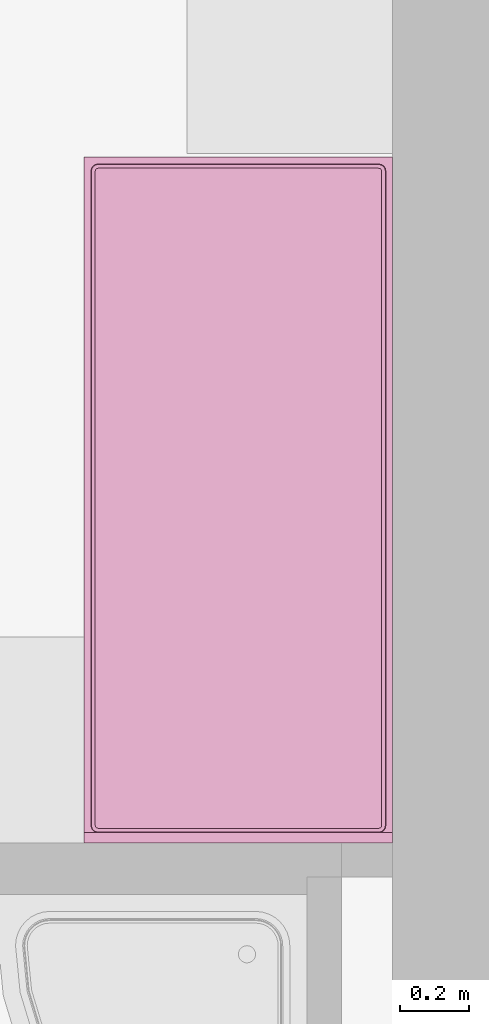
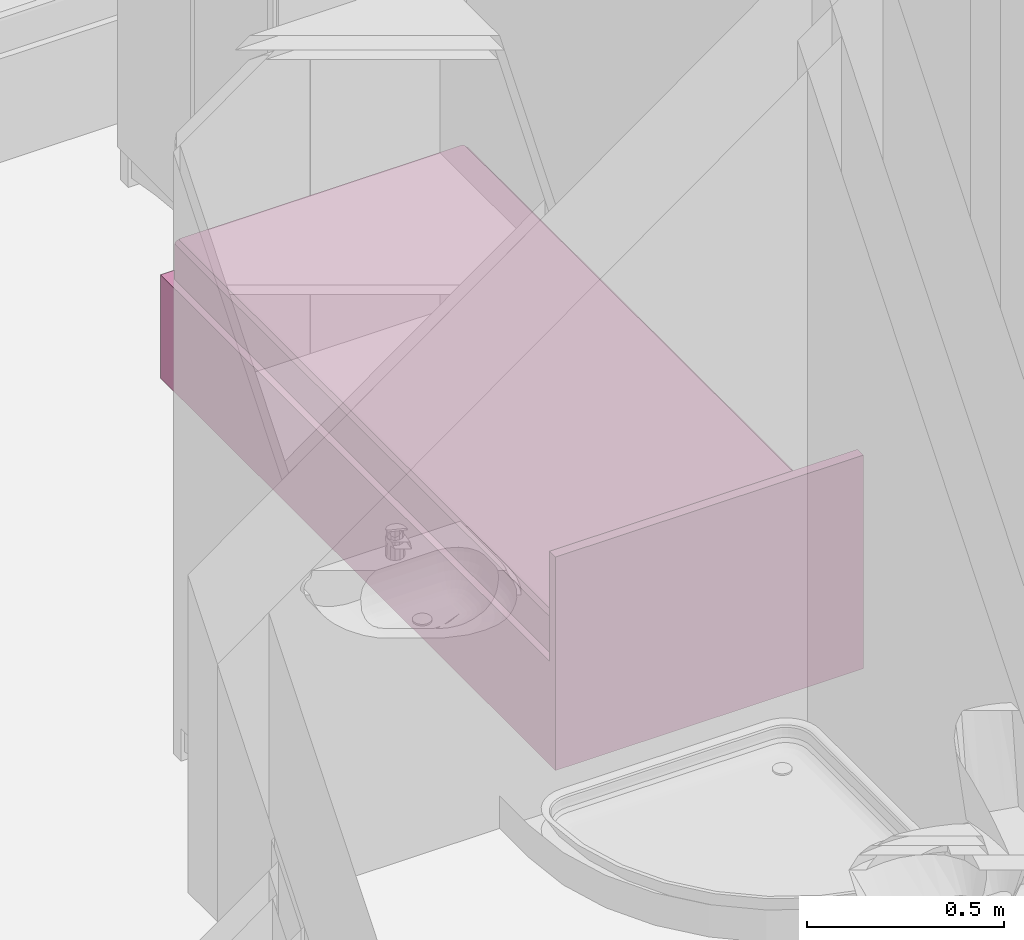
# One storey, part 135 of 165: 1 furnishing.
"""IFC2X3 building model written with IfcOpenShell, lengths in millimetres."""

from ifc_helpers import new_model, entity, si_unit, converted_unit, money_unit, direction, frame, origin_with_axes, place, context, subcontext, project, spatial, faceted_brep, source, transform, mapped, material, material_list, type_object, element, save


model = new_model("IFC2X3")

# Units and contexts
model_context = context("Model", 3, precision=1e-05, world=origin_with_axes(), true_north=direction((0.0, 1.0)))
body_context = subcontext(model_context, "Body", "Model", "MODEL_VIEW")
ifc_project = project(units=[si_unit("LENGTHUNIT", "METRE", prefix="MILLI"), si_unit("AREAUNIT", "SQUARE_METRE"), si_unit("VOLUMEUNIT", "CUBIC_METRE"), converted_unit("PLANEANGLEUNIT", "DEGREE", entity("IfcPlaneAngleMeasure", 0.0174532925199), si_unit("PLANEANGLEUNIT", "RADIAN"), dimensions=[0, 0, 0, 0, 0, 0, 0]), si_unit("SOLIDANGLEUNIT", "STERADIAN"), money_unit("USD"), converted_unit("TIMEUNIT", "Year", entity("IfcTimeMeasure", 31556926.0), si_unit("TIMEUNIT", "SECOND"), dimensions=[0, 0, 0, 0, 0, 0, 0]), si_unit("MASSUNIT", "GRAM"), si_unit("THERMODYNAMICTEMPERATUREUNIT", "DEGREE_CELSIUS"), si_unit("LUMINOUSINTENSITYUNIT", "LUMEN")], contexts=[model_context])

# Site, building, storey
site_placement = place(None, origin_with_axes())
site = spatial("IfcSite", under=ifc_project, at=site_placement, Name="Site", CompositionType="ELEMENT")
building_placement = place(site_placement, origin_with_axes())
building = spatial("IfcBuilding", under=site, at=building_placement, Name="Building", CompositionType="ELEMENT")
storey_placement = place(building_placement, frame((0.0, 0.0, 6300.0), z_axis=(0.0, 0.0, 1.0), x_axis=(1.0, 0.0, 0.0)))
storey = spatial("IfcBuildingStorey", under=building, at=storey_placement, Name="4KORRUS", CompositionType="ELEMENT", Elevation=6300.0)

# Furnishing
ifc_material = material(Name="Background")
ifc_material_list = material_list([ifc_material])
furnishing_element_type = type_object("IfcFurnishingElementType", Name="Bed 19")
shared_shape = source(origin_with_axes(), body_context, "Body", "Brep", [
    faceted_brep([(-900.0, 1970.0, 0.0), (-900.0, 2000.0, 0.0), (0.0, 2000.0, 0.0), (0.0, 1970.0, 0.0), (-900.0, 1970.0, 660.0), (-900.0, 2000.0, 660.0), (0.0, 2000.0, 660.0), (0.0, 1970.0, 660.0)], [[[0, 1, 2, 3]], [[0, 4, 5, 1]], [[1, 5, 6, 2]], [[2, 6, 7, 3]], [[3, 7, 4, 0]], [[7, 6, 5, 4]]]),
    faceted_brep([(-900.0, 0.0, 0.0), (-900.0, 1970.0, 0.0), (0.0, 1970.0, 0.0), (0.0, 0.0, 0.0), (-900.0, 0.0, 320.0), (-900.0, 1970.0, 320.0), (0.0, 1970.0, 320.0), (0.0, 0.0, 320.0)], [[[0, 1, 2, 3]], [[0, 4, 5, 1]], [[1, 5, 6, 2]], [[2, 6, 7, 3]], [[3, 7, 4, 0]], [[7, 6, 5, 4]]]),
    faceted_brep([(-905.0, 10.0, 30.0), (-905.0, 695.0, 30.0), (-900.0, 695.0, 30.0), (-900.0, 10.0, 30.0), (-905.0, 10.0, 290.0), (-905.0, 695.0, 290.0), (-900.0, 695.0, 290.0), (-900.0, 10.0, 290.0)], [[[0, 1, 2, 3]], [[0, 4, 5, 1]], [[1, 5, 6, 2]], [[2, 6, 7, 3]], [[3, 7, 4, 0]], [[7, 6, 5, 4]]]),
    faceted_brep([(-935.0, 307.5, 150.0), (-935.0, 397.5, 150.0), (-905.0, 397.5, 150.0), (-905.0, 307.5, 150.0), (-935.0, 307.5, 170.0), (-935.0, 397.5, 170.0), (-905.0, 397.5, 170.0), (-905.0, 307.5, 170.0)], [[[0, 1, 2, 3]], [[0, 4, 5, 1]], [[1, 5, 6, 2]], [[2, 6, 7, 3]], [[3, 7, 4, 0]], [[7, 6, 5, 4]]]),
    faceted_brep([(-905.0, 705.0, 30.0), (-905.0, 1390.0, 30.0), (-900.0, 1390.0, 30.0), (-900.0, 705.0, 30.0), (-905.0, 705.0, 290.0), (-905.0, 1390.0, 290.0), (-900.0, 1390.0, 290.0), (-900.0, 705.0, 290.0)], [[[0, 1, 2, 3]], [[0, 4, 5, 1]], [[1, 5, 6, 2]], [[2, 6, 7, 3]], [[3, 7, 4, 0]], [[7, 6, 5, 4]]]),
    faceted_brep([(-935.0, 1002.5, 150.0), (-935.0, 1092.5, 150.0), (-905.0, 1092.5, 150.0), (-905.0, 1002.5, 150.0), (-935.0, 1002.5, 170.0), (-935.0, 1092.5, 170.0), (-905.0, 1092.5, 170.0), (-905.0, 1002.5, 170.0)], [[[0, 1, 2, 3]], [[0, 4, 5, 1]], [[1, 5, 6, 2]], [[2, 6, 7, 3]], [[3, 7, 4, 0]], [[7, 6, 5, 4]]]),
    faceted_brep([(-20.0, 40.0, 350.0), (-21.522, 32.346, 350.0), (-25.858, 25.858, 350.0), (-32.346, 21.522, 350.0), (-40.0, 20.0, 350.0), (-860.0, 20.0, 350.0), (-867.654, 21.522, 350.0), (-874.142, 25.858, 350.0), (-878.478, 32.346, 350.0), (-880.0, 40.0, 350.0), (-880.0, 1950.0, 350.0), (-878.478, 1957.654, 350.0), (-874.142, 1964.142, 350.0), (-867.654, 1968.478, 350.0), (-860.0, 1970.0, 350.0), (-40.0, 1970.0, 350.0), (-32.346, 1968.478, 350.0), (-25.858, 1964.142, 350.0), (-21.522, 1957.654, 350.0), (-20.0, 1950.0, 350.0), (-20.0, 40.0, 420.0), (-21.522, 32.346, 420.0), (-25.858, 25.858, 420.0), (-32.346, 21.522, 420.0), (-40.0, 20.0, 420.0), (-860.0, 20.0, 420.0), (-867.654, 21.522, 420.0), (-874.142, 25.858, 420.0), (-878.478, 32.346, 420.0), (-880.0, 40.0, 420.0), (-880.0, 1950.0, 420.0), (-878.478, 1957.654, 420.0), (-874.142, 1964.142, 420.0), (-867.654, 1968.478, 420.0), (-860.0, 1970.0, 420.0), (-40.0, 1970.0, 420.0), (-32.346, 1968.478, 420.0), (-25.858, 1964.142, 420.0), (-21.522, 1957.654, 420.0), (-20.0, 1950.0, 420.0), (-21.522, 40.15, 427.654), (-22.956, 32.94, 427.654), (-26.955, 26.955, 427.654), (-32.94, 22.956, 427.654), (-40.15, 21.522, 427.654), (-859.85, 21.522, 427.654), (-867.06, 22.956, 427.654), (-873.045, 26.955, 427.654), (-877.044, 32.94, 427.654), (-878.478, 40.15, 427.654), (-878.478, 1949.85, 427.654), (-877.044, 1957.06, 427.654), (-873.045, 1963.045, 427.654), (-867.06, 1967.044, 427.654), (-859.85, 1968.478, 427.654), (-40.15, 1968.478, 427.654), (-32.94, 1967.044, 427.654), (-26.955, 1963.045, 427.654), (-22.956, 1957.06, 427.654), (-21.522, 1949.85, 427.654), (-32.346, 41.216, 438.478), (-33.152, 37.164, 438.478), (-34.759, 34.759, 438.478), (-37.164, 33.152, 438.478), (-41.216, 32.346, 438.478), (-858.784, 32.346, 438.478), (-862.836, 33.152, 438.478), (-865.241, 34.759, 438.478), (-866.848, 37.164, 438.478), (-867.654, 41.216, 438.478), (-867.654, 1948.784, 438.478), (-866.848, 1952.836, 438.478), (-865.241, 1955.241, 438.478), (-862.836, 1956.848, 438.478), (-858.784, 1957.654, 438.478), (-41.216, 1957.654, 438.478), (-37.164, 1956.848, 438.478), (-34.759, 1955.241, 438.478), (-33.152, 1952.836, 438.478), (-32.346, 1948.784, 438.478), (-40.0, 41.97, 440.0), (-40.327, 40.327, 440.0), (-40.0, 40.0, 439.924), (-41.97, 40.0, 440.0), (-858.03, 40.0, 440.0), (-859.673, 40.327, 440.0), (-860.0, 40.0, 439.924), (-860.0, 41.97, 440.0), (-860.0, 1948.03, 440.0), (-859.673, 1949.673, 440.0), (-860.0, 1950.0, 439.924), (-858.03, 1950.0, 440.0), (-41.97, 1950.0, 440.0), (-40.327, 1949.673, 440.0), (-40.0, 1950.0, 439.924), (-40.0, 1948.03, 440.0)], [[[0, 1, 2, 3, 4, 5, 6, 7, 8, 9, 10, 11, 12, 13, 14, 15, 16, 17, 18, 19]], [[0, 20, 21, 1]], [[1, 21, 22, 2]], [[2, 22, 23, 3]], [[3, 23, 24, 4]], [[4, 24, 25, 5]], [[5, 25, 26, 6]], [[6, 26, 27, 7]], [[7, 27, 28, 8]], [[8, 28, 29, 9]], [[9, 29, 30, 10]], [[10, 30, 31, 11]], [[11, 31, 32, 12]], [[12, 32, 33, 13]], [[13, 33, 34, 14]], [[14, 34, 35, 15]], [[15, 35, 36, 16]], [[16, 36, 37, 17]], [[17, 37, 38, 18]], [[18, 38, 39, 19]], [[19, 39, 20, 0]], [[20, 40, 41, 21]], [[21, 41, 42, 22]], [[22, 42, 43, 23]], [[23, 43, 44, 24]], [[24, 44, 45, 25]], [[25, 45, 46, 26]], [[26, 46, 47, 27]], [[27, 47, 48, 28]], [[28, 48, 49, 29]], [[29, 49, 50, 30]], [[30, 50, 51, 31]], [[31, 51, 52, 32]], [[32, 52, 53, 33]], [[33, 53, 54, 34]], [[34, 54, 55, 35]], [[35, 55, 56, 36]], [[36, 56, 57, 37]], [[37, 57, 58, 38]], [[38, 58, 59, 39]], [[39, 59, 40, 20]], [[40, 60, 61, 41]], [[41, 61, 62, 42]], [[42, 62, 63, 43]], [[43, 63, 64, 44]], [[44, 64, 65, 45]], [[45, 65, 66, 46]], [[46, 66, 67, 47]], [[47, 67, 68, 48]], [[48, 68, 69, 49]], [[49, 69, 70, 50]], [[50, 70, 71, 51]], [[51, 71, 72, 52]], [[52, 72, 73, 53]], [[53, 73, 74, 54]], [[54, 74, 75, 55]], [[55, 75, 76, 56]], [[56, 76, 77, 57]], [[57, 77, 78, 58]], [[58, 78, 79, 59]], [[59, 79, 60, 40]], [[60, 80, 81, 82, 61]], [[61, 82, 62]], [[62, 82, 63]], [[63, 82, 81, 83, 64]], [[64, 83, 84, 65]], [[65, 84, 85, 86, 66]], [[66, 86, 67]], [[67, 86, 68]], [[68, 86, 85, 87, 69]], [[69, 87, 88, 70]], [[70, 88, 89, 90, 71]], [[71, 90, 72]], [[72, 90, 73]], [[73, 90, 89, 91, 74]], [[74, 91, 92, 75]], [[75, 92, 93, 94, 76]], [[76, 94, 77]], [[77, 94, 78]], [[78, 94, 93, 95, 79]], [[79, 95, 80, 60]], [[95, 93, 92, 91, 89, 88, 87, 85, 84, 83, 81, 80]]]),
    faceted_brep([(-20.0, 40.0, 350.0), (-20.0, 1950.0, 350.0), (-21.522, 1957.654, 350.0), (-25.858, 1964.142, 350.0), (-32.346, 1968.478, 350.0), (-40.0, 1970.0, 350.0), (-860.0, 1970.0, 350.0), (-867.654, 1968.478, 350.0), (-874.142, 1964.142, 350.0), (-878.478, 1957.654, 350.0), (-880.0, 1950.0, 350.0), (-880.0, 40.0, 350.0), (-878.478, 32.346, 350.0), (-874.142, 25.858, 350.0), (-867.654, 21.522, 350.0), (-860.0, 20.0, 350.0), (-40.0, 20.0, 350.0), (-32.346, 21.522, 350.0), (-25.858, 25.858, 350.0), (-21.522, 32.346, 350.0), (-20.0, 40.0, 320.0), (-20.0, 1950.0, 320.0), (-21.522, 1957.654, 320.0), (-25.858, 1964.142, 320.0), (-32.346, 1968.478, 320.0), (-40.0, 1970.0, 320.0), (-860.0, 1970.0, 320.0), (-867.654, 1968.478, 320.0), (-874.142, 1964.142, 320.0), (-878.478, 1957.654, 320.0), (-880.0, 1950.0, 320.0), (-880.0, 40.0, 320.0), (-878.478, 32.346, 320.0), (-874.142, 25.858, 320.0), (-867.654, 21.522, 320.0), (-860.0, 20.0, 320.0), (-40.0, 20.0, 320.0), (-32.346, 21.522, 320.0), (-25.858, 25.858, 320.0), (-21.522, 32.346, 320.0)], [[[0, 1, 2, 3, 4, 5, 6, 7, 8, 9, 10, 11, 12, 13, 14, 15, 16, 17, 18, 19]], [[1, 0, 20, 21]], [[2, 1, 21, 22]], [[3, 2, 22, 23]], [[4, 3, 23, 24]], [[5, 4, 24, 25]], [[6, 5, 25, 26]], [[7, 6, 26, 27]], [[8, 7, 27, 28]], [[9, 8, 28, 29]], [[10, 9, 29, 30]], [[11, 10, 30, 31]], [[12, 11, 31, 32]], [[13, 12, 32, 33]], [[14, 13, 33, 34]], [[15, 14, 34, 35]], [[16, 15, 35, 36]], [[17, 16, 36, 37]], [[18, 17, 37, 38]], [[19, 18, 38, 39]], [[0, 19, 39, 20]], [[20, 39, 38, 37, 36, 35, 34, 33, 32, 31, 30, 29, 28, 27, 26, 25, 24, 23, 22, 21]]]),
])
furnishing_placement = place(storey_placement, frame((4809.70329669, -7217.37850445, 0.0), z_axis=(0.0, 0.0, 1.0), x_axis=(-1.0, 0.0, 0.0)))
element("IfcFurnishingElement", 1, at=furnishing_placement, inside=storey, type_object=furnishing_element_type, material=ifc_material_list, Name="FU - 013", context=body_context, shape_type="MappedRepresentation", body=[
    mapped(shared_shape, transform((0.0, 0.0, 0.0))),
])

save(model, "model.ifc")
